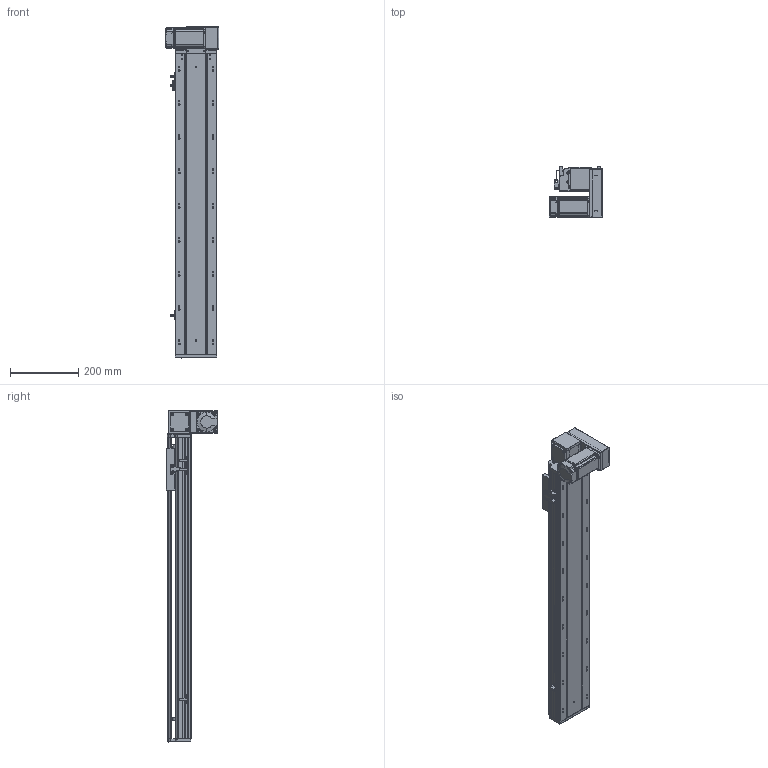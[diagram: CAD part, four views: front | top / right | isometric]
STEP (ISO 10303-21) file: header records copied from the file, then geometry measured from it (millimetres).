
FILE_DESCRIPTION (( 'STEP AP203' ), '1' );
FILE_NAME ('RY120-T-300-DR.SLDASM_650.step', '2021-03-01T03:35:07', ( '盈信电脑' ), ( '东莞市道滘镇水果街19号' ), 'SwSTEP 2.0', 'SolidWorks 2012', '' );
FILE_SCHEMA (( 'CONFIG_CONTROL_DESIGN' ));
Products named in the file (17): RY120-T-300-DR.SLDASM_650; RY120-T萇儂欶; RY120-T主同步轮轴承压盖; RY120-T蹟翐M4; RY120-T翋肮祭謫裔啣; 15; RY120-T萇儂假蚾啣; RY120-T肮祭湍揤踡輸2; RY120-T肮祭湍揤踡輸1; 滅袉蝶18-10; RY120-T翋肮祭盓傅釱; 覜茼ん672; RY120肮祭湍臏賑輸; RY120綴裔啣; RY120外置感应片(140共用）; RY120-T-300-DR倰第奻裔啣_650; RY120-T-300-DR倰第菁釱_650
Assembly tree (22 placements, depth 2):
  RY120-T-300-DR.SLDASM_650
    RY120-T-300-DR倰第菁釱_650
    RY120-T-300-DR倰第奻裔啣_650
    RY120肮祭湍臏賑輸
    RY120綴裔啣
    覜茼ん672  x3
    RY120外置感应片(140共用）
    RY120-T肮祭湍揤踡輸1
    RY120-T肮祭湍揤踡輸2
    RY120-T翋肮祭盓傅釱
    滅袉蝶18-10  x2
    RY120-T翋肮祭謫裔啣
    15
    RY120-T萇儂假蚾啣
    RY120-T蹟翐M4  x4
    RY120-T萇儂欶
    RY120-T主同步轮轴承压盖
Bounding box: 155.5 x 150 x 971 mm (x, y, z)
Volume: 2845553.9 mm3; surface area: 1048095.4 mm2
Topology: 23 solids, 23 shells, 2856 faces, 7828 edges, 5042 vertices
Faces by surface type: plane 1436, cylinder 1100, cone 231, bspline 89
Entity records: 92049 total; most frequent: CARTESIAN_POINT 24004, ORIENTED_EDGE 14128, DIRECTION 13210, EDGE_CURVE 7064, VERTEX_POINT 4629, AXIS2_PLACEMENT_3D 4423, LINE 4364, VECTOR 4364
